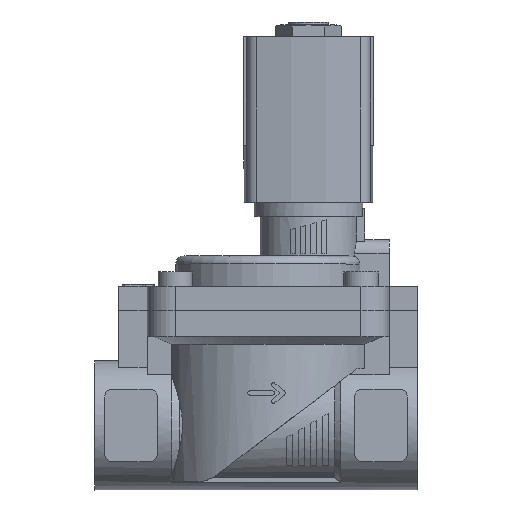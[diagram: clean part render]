
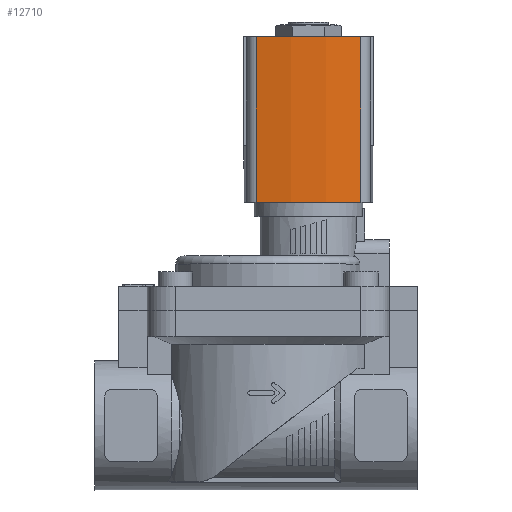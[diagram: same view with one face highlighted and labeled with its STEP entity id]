
A CAD part, top view. The second image highlights one B-rep face of the part: STEP entity #12710.
In plain terms, the highlighted cylindrical face has radius 60 mm (diameter 120 mm), a partial arc.
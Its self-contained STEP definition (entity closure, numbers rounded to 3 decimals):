
#1584=LINE('',#19471,#2656);
#1585=LINE('',#19475,#2657);
#2656=VECTOR('',#16128,1000.);
#2657=VECTOR('',#16133,1000.);
#5017=ORIENTED_EDGE('',*,*,#7032,.T.);
#5018=ORIENTED_EDGE('',*,*,#7033,.F.);
#5019=ORIENTED_EDGE('',*,*,#6318,.F.);
#5020=ORIENTED_EDGE('',*,*,#7031,.T.);
#6318=EDGE_CURVE('',#7578,#7579,#8309,.T.);
#7031=EDGE_CURVE('',#7578,#8084,#1584,.T.);
#7032=EDGE_CURVE('',#8084,#8085,#8403,.T.);
#7033=EDGE_CURVE('',#7579,#8085,#1585,.T.);
#7578=VERTEX_POINT('',#18125);
#7579=VERTEX_POINT('',#18127);
#8084=VERTEX_POINT('',#19470);
#8085=VERTEX_POINT('',#19474);
#8309=CIRCLE('',#13361,60.);
#8403=CIRCLE('',#13582,60.);
#8842=EDGE_LOOP('',(#5017,#5018,#5019,#5020));
#9436=FACE_BOUND('',#8842,.T.);
#9687=CYLINDRICAL_SURFACE('',#13581,60.);
#12710=ADVANCED_FACE('',(#9436),#9687,.T.);
#13361=AXIS2_PLACEMENT_3D('',#18126,#15069,#15070);
#13581=AXIS2_PLACEMENT_3D('',#19472,#16129,#16130);
#13582=AXIS2_PLACEMENT_3D('',#19473,#16131,#16132);
#15069=DIRECTION('',(0.,1.,0.));
#15070=DIRECTION('',(1.,0.,0.));
#16128=DIRECTION('',(0.,-1.,0.));
#16129=DIRECTION('',(0.,-1.,0.));
#16130=DIRECTION('',(0.,0.,-1.));
#16131=DIRECTION('',(0.,1.,0.));
#16132=DIRECTION('',(1.,0.,0.));
#16133=DIRECTION('',(0.,-1.,0.));
#18125=CARTESIAN_POINT('',(19.078,15.,12.986));
#18126=CARTESIAN_POINT('',(-39.5,15.,0.));
#18127=CARTESIAN_POINT('',(19.078,15.,-12.986));
#19470=CARTESIAN_POINT('',(19.078,-26.,12.986));
#19471=CARTESIAN_POINT('',(19.078,15.,12.986));
#19472=CARTESIAN_POINT('',(-39.5,15.,0.));
#19473=CARTESIAN_POINT('',(-39.5,-26.,0.));
#19474=CARTESIAN_POINT('',(19.078,-26.,-12.986));
#19475=CARTESIAN_POINT('',(19.078,15.,-12.986));
